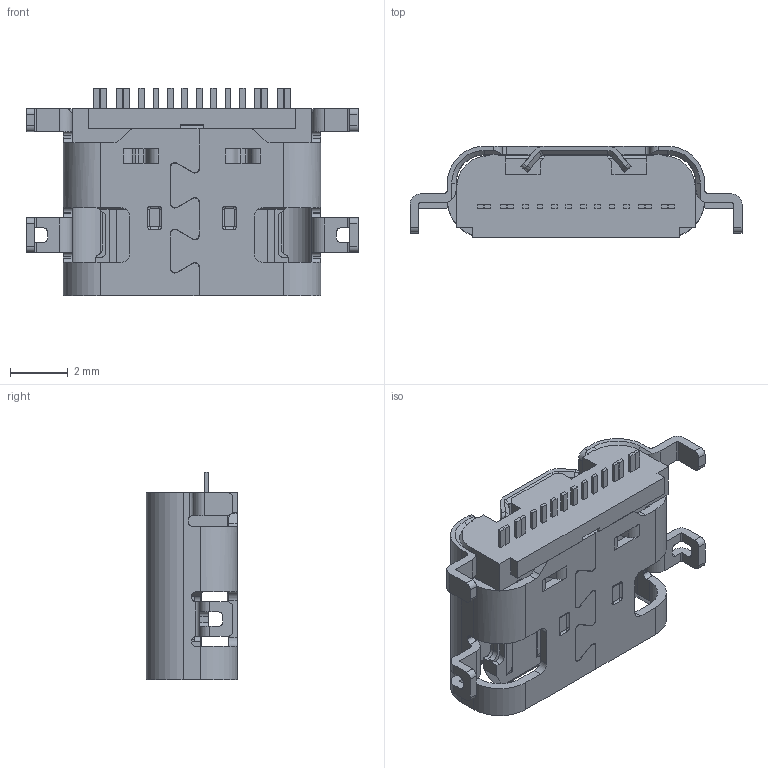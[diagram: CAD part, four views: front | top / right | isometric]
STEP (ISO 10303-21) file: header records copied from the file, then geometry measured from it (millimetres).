
FILE_DESCRIPTION (( 'STEP AP203' ), '1' );
FILE_NAME ('GT-USB-9014B.STEP', '2025-05-15T01:24:55', ( '' ), ( '' ), 'SwSTEP 2.0', 'SolidWorks 2023', '' );
FILE_SCHEMA (( 'CONFIG_CONTROL_DESIGN' ));
Length unit declared in the file: millimetre
Products named in the file (1): GT-USB-9014B
Bounding box: 11.54 x 3.18 x 7.2 mm (x, y, z)
Volume: 95.5 mm3; surface area: 440.7 mm2
Topology: 1 solids, 1 shells, 1017 faces, 2895 edges, 1879 vertices
Faces by surface type: plane 706, cylinder 205, bspline 95, cone 11
Entity records: 36919 total; most frequent: CARTESIAN_POINT 10665, ORIENTED_EDGE 5790, DIRECTION 4956, EDGE_CURVE 2895, VECTOR 2228, LINE 2228, VERTEX_POINT 1879, AXIS2_PLACEMENT_3D 1364
